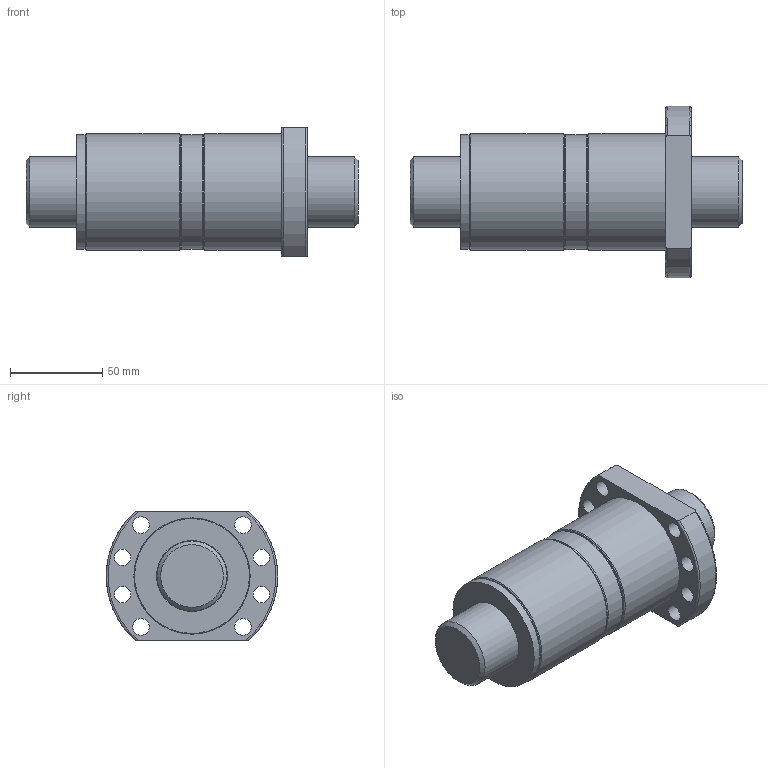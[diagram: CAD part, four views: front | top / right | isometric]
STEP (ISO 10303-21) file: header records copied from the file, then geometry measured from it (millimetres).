
FILE_DESCRIPTION(/* description */ (''),/* implementation_level */ '2;1');
FILE_NAME(/* name */ 'DFS4008',/* time_stamp */ '2007-10-26T13:49:05+08:00',/* author */ (''),/* organization */ (''),/* preprocessor_version */ 'ST-DEVELOPER v9',/* originating_system */ 'UGS - NX 3.0',/* authorisation */ '');
FILE_SCHEMA (('CONFIG_CONTROL_DESIGN'));
Length unit declared in the file: millimetre
Products named in the file (1): jaso15A4i331
Bounding box: 180 x 93 x 70 mm (x, y, z)
Volume: 458317.2 mm3; surface area: 96036.2 mm2
Topology: 7 solids, 7 shells, 53 faces, 111 edges, 74 vertices
Faces by surface type: cylinder 24, plane 18, torus 9, cone 2
Full cylindrical faces by diameter (mm): 9 x8, 38 x1, 38.3 x1, 38.5 x2, 40.76 x2, 42 x1, 62 x2, 62.3 x2, 63 x3
Entity records: 1494 total; most frequent: CARTESIAN_POINT 340, DIRECTION 234, ORIENTED_EDGE 150, AXIS2_PLACEMENT_3D 113, EDGE_LOOP 112, FACE_BOUND 86, EDGE_CURVE 75, VERTEX_POINT 67
